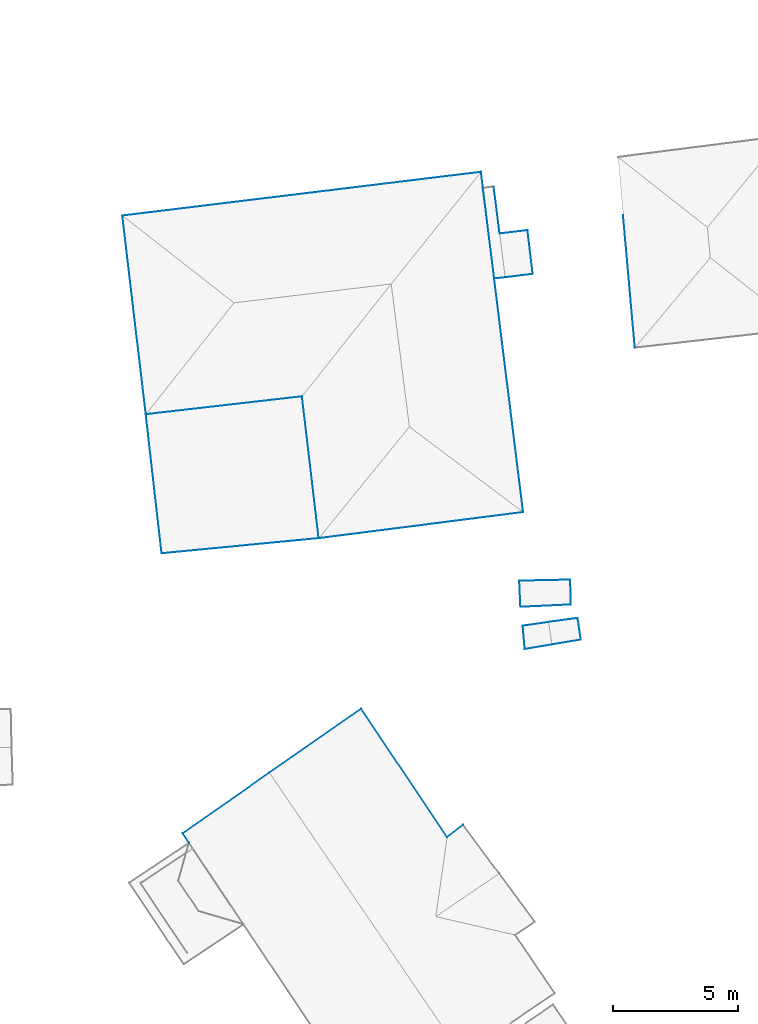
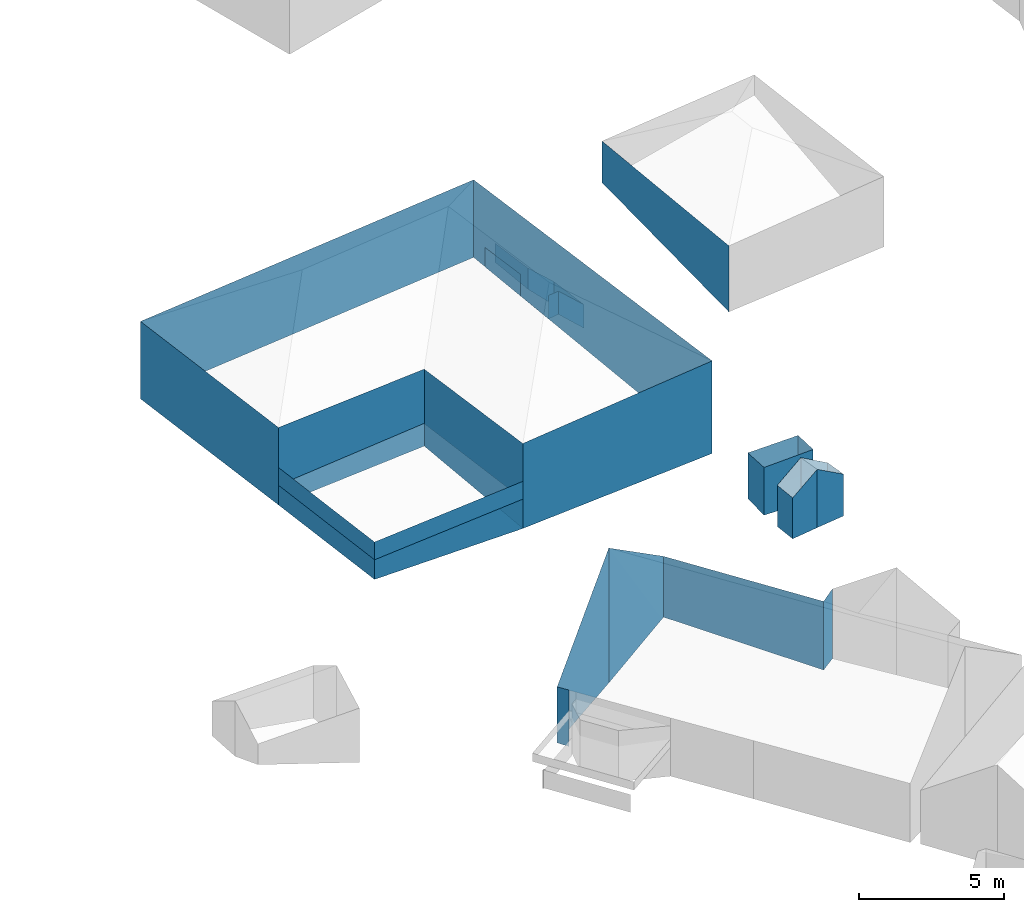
# Not in any storey, part 4 of 57: 36 walls.
"""IFC2X3 building model written with IfcOpenShell, lengths in metres."""

import ifcopenshell
import ifcopenshell.guid

model = None  # the IFC model being written
_history = None  # IfcOwnerHistory: only IFC2X3 demands one
_inside = {}  # id of a spatial element -> (the spatial element, [elements in it])
_under = {}  # id of a project, library or spatial element -> (it, [spatial elements below it])
_declared = {}  # id of a project -> (the project, [libraries it declares])
_typed = {}  # id of a type object -> (the type object, [elements of that type])
_made_of = {}  # id of a material, layer set ... -> (it, [elements and type objects made of it])


def new_model(schema):
    """Start an empty IFC model of exactly this schema.

    Asked for "IFC4X3", IfcOpenShell would pick the latest addendum, in which some entities
    have other attributes; the version numbers below select the first issue.
    IFC2X3 requires an IfcOwnerHistory on every rooted entity: one is made here for all.
    """
    global model, _history
    if schema == "IFC4X3":
        model = ifcopenshell.file(schema_version=(4, 3, 0, 0))
    else:
        model = ifcopenshell.file(schema=schema)
    _inside.clear()
    _under.clear()
    _declared.clear()
    _typed.clear()
    _made_of.clear()
    _history = None
    if model.schema == "IFC2X3":
        org = make("IfcOrganization", Name="unknown")
        user = make(
            "IfcPersonAndOrganization",
            ThePerson=make("IfcPerson", FamilyName="unknown"),
            TheOrganization=org,
        )
        app = make(
            "IfcApplication",
            ApplicationDeveloper=org,
            Version="unknown",
            ApplicationFullName="unknown",
            ApplicationIdentifier="unknown",
        )
        _history = make(
            "IfcOwnerHistory",
            OwningUser=user,
            OwningApplication=app,
            ChangeAction="ADDED",
            CreationDate=0,
        )
    return model


def make(cls, **values):
    """One entity of the class cls with the attributes given. An attribute that is None is left unset."""
    return model.create_entity(
        cls, **{name: value for name, value in values.items() if value is not None}
    )


def entity(cls, *values):
    """Any entity or typed value of the class cls, its attributes in the order of the schema. None: left unset."""
    e = model.create_entity(cls)
    for i, value in enumerate(values):
        if value is not None:
            e[i] = value
    return e


def rooted(cls, **values):
    """An entity with a GlobalId (a new one), such as an element, a storey or a relation."""
    return make(cls, GlobalId=ifcopenshell.guid.new(), OwnerHistory=_history, **values)


def si_unit(unit_type, name, prefix=None):
    """IfcSIUnit, for example si_unit("LENGTHUNIT", "METRE", prefix="MILLI")."""
    return make("IfcSIUnit", UnitType=unit_type, Prefix=prefix, Name=name)


def converted_unit(unit_type, name, factor, base, dimensions=None, offset=None):
    """IfcConversionBasedUnit, such as the inch: factor (a typed value) times the base unit."""
    return make(
        "IfcConversionBasedUnit"
        if offset is None
        else "IfcConversionBasedUnitWithOffset",
        ConversionOffset=offset,
        Dimensions=None
        if dimensions is None
        else entity("IfcDimensionalExponents", *dimensions),
        UnitType=unit_type,
        Name=name,
        ConversionFactor=make(
            "IfcMeasureWithUnit", ValueComponent=factor, UnitComponent=base
        ),
    )


def assignment(units):
    """IfcUnitAssignment: the units of a project."""
    return None if units is None else make("IfcUnitAssignment", Units=units)


def point(xyz):
    """IfcCartesianPoint."""
    return None if xyz is None else make("IfcCartesianPoint", Coordinates=xyz)


def direction(xyz):
    """IfcDirection."""
    return None if xyz is None else make("IfcDirection", DirectionRatios=xyz)


def frame(location, z_axis=None, x_axis=None):
    """IfcAxis2Placement3D, a coordinate frame: its origin and axes. An axis left out is left unset."""
    return make(
        "IfcAxis2Placement3D",
        Location=point(location),
        Axis=direction(z_axis),
        RefDirection=direction(x_axis),
    )


def origin():
    """The frame at (0, 0, 0) with its axes left unset."""
    return frame((0.0, 0.0, 0.0))


def place(relative_to, where):
    """IfcLocalPlacement: puts the frame where relative to a parent placement (None: the world)."""
    return make(
        "IfcLocalPlacement", PlacementRelTo=relative_to, RelativePlacement=where
    )


def context(
    kind, dimensions, precision=None, world=None, true_north=None, identifier=None
):
    """IfcGeometricRepresentationContext, for example the 3D "Model" context."""
    return make(
        "IfcGeometricRepresentationContext",
        ContextIdentifier=identifier,
        ContextType=kind,
        CoordinateSpaceDimension=dimensions,
        Precision=precision,
        WorldCoordinateSystem=world,
        TrueNorth=true_north,
    )


def subcontext(parent, identifier, kind, view, scale=None):
    """IfcGeometricRepresentationSubContext, for example "Body" below "Model"."""
    return make(
        "IfcGeometricRepresentationSubContext",
        ContextIdentifier=identifier,
        ContextType=kind,
        ParentContext=parent,
        TargetScale=scale,
        TargetView=view,
    )


def project(units=None, contexts=None):
    """IfcProject with its units and contexts."""
    return rooted(
        "IfcProject",
        Name="project",
        RepresentationContexts=contexts,
        UnitsInContext=assignment(units),
    )


def spatial(cls, under=None, at=None, **own):
    """A site, building, storey or space (cls), placed at a placement, below another one or the project."""
    s = rooted(cls, ObjectPlacement=at, **own)
    if under is not None:
        _under.setdefault(under.id(), (under, []))[1].append(s)
    return s


def faces_of(points, faces, orient=None, outer=None):
    """IfcFace entities. A face is a list of loops; a loop is a list of indices into points, from 0.

    orient and outer hold one flag for each loop. By default every Orientation is true, the
    first loop of a face is its IfcFaceOuterBound and the others are IfcFaceBound.
    """
    made = []
    for i, loops in enumerate(faces):
        bounds = []
        for j, loop in enumerate(loops):
            is_outer = j == 0 if outer is None else outer[i][j]
            bounds.append(
                make(
                    "IfcFaceOuterBound" if is_outer else "IfcFaceBound",
                    Bound=make("IfcPolyLoop", Polygon=[points[k] for k in loop]),
                    Orientation=True if orient is None else orient[i][j],
                )
            )
        made.append(make("IfcFace", Bounds=bounds))
    return made


def face_set(faces, orient=None, outer=None):
    """The faces of one IfcConnectedFaceSet. surface_model builds it on its shared points."""
    return ("IfcConnectedFaceSet", faces, orient, outer)


def surface_model(cls, points, shells):
    """IfcFaceBasedSurfaceModel or IfcShellBasedSurfaceModel (cls): surfaces that need not close."""
    shared = [point(p) for p in points]
    made = [make(c, CfsFaces=faces_of(shared, fs, o, b)) for c, fs, o, b in shells]
    if cls == "IfcFaceBasedSurfaceModel":
        return make(cls, FbsmFaces=made)
    return make(cls, SbsmBoundary=made)


def shape(context_of_items, identifier, shape_type, items):
    """IfcShapeRepresentation: the items that make up one representation, for example the "Body"."""
    return make(
        "IfcShapeRepresentation",
        ContextOfItems=context_of_items,
        RepresentationIdentifier=identifier,
        RepresentationType=shape_type,
        Items=items,
    )


def made_of(thing, what):
    """Note that an element or type object is made of a material, layer set ...; save() writes the relation."""
    if what is not None:
        _made_of.setdefault(what.id(), (what, []))[1].append(thing)
    return thing


def element(
    cls,
    number,
    at=None,
    inside=None,
    cuts=None,
    type_object=None,
    material=None,
    context=None,
    identifier="Body",
    shape_type=None,
    held_by="IfcProductDefinitionShape",
    body=None,
    shapes=None,
    **own,
):
    """One element of the class cls, such as IfcWall. Its Tag is "e" and its number.

    at: its placement. inside: the storey or other place that contains it. cuts: it is an
    opening in that element (IfcRelVoidsElement). A single representation is given by context,
    identifier, shape_type and body (its items); several are given by shapes. held_by: the class
    of the entity that holds the representations. save() writes the other relations.
    """
    e = rooted(cls, Tag="e%d" % number, ObjectPlacement=at, **own)
    if body is not None:
        shapes = [shape(context, identifier, shape_type, body)]
    if shapes is not None:
        e.Representation = make(held_by, Representations=shapes)
    if inside is not None:
        _inside.setdefault(inside.id(), (inside, []))[1].append(e)
    if cuts is not None:
        rooted(
            "IfcRelVoidsElement", RelatingBuildingElement=cuts, RelatedOpeningElement=e
        )
    if type_object is not None:
        _typed.setdefault(type_object.id(), (type_object, []))[1].append(e)
    return made_of(e, material)


def aggregate(whole, parts):
    """IfcRelAggregates: a whole, such as a stair, and the parts it consists of."""
    return rooted("IfcRelAggregates", RelatingObject=whole, RelatedObjects=parts)


def save(model, path):
    """Write the relations noted so far, then the file.

    IfcRelAggregates (storeys below a building ...), IfcRelContainedInSpatialStructure (elements
    in a storey), IfcRelDefinesByType, IfcRelAssociatesMaterial and IfcRelDeclares: one each for
    every whole, place, type object, material and project.
    """
    for whole, parts in _under.values():
        aggregate(whole, parts)
    for where, things in _inside.values():
        rooted(
            "IfcRelContainedInSpatialStructure",
            RelatedElements=things,
            RelatingStructure=where,
        )
    for kind, things in _typed.values():
        rooted("IfcRelDefinesByType", RelatedObjects=things, RelatingType=kind)
    for what, things in _made_of.values():
        rooted("IfcRelAssociatesMaterial", RelatedObjects=things, RelatingMaterial=what)
    for by, libraries in _declared.values():
        rooted("IfcRelDeclares", RelatingContext=by, RelatedDefinitions=libraries)
    model.write(path)


model = new_model("IFC2X3")

# Units and contexts
model_context = context("Model", 3, precision=1e-05, world=origin())
body_context = subcontext(model_context, "Body", "Model", "MODEL_VIEW")
ifc_project = project(units=[converted_unit("PLANEANGLEUNIT", "DEGREE", entity("IfcRatioMeasure", 0.0174532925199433), si_unit("PLANEANGLEUNIT", "RADIAN"), dimensions=[0, 0, 0, 0, 0, 0, 0]), si_unit("AREAUNIT", "SQUARE_METRE"), si_unit("LENGTHUNIT", "METRE")], contexts=[model_context])

# Site, building
site_placement = place(None, origin())
site = spatial("IfcSite", under=ifc_project, at=site_placement, Name="_site", CompositionType="ELEMENT")
building_1_placement = place(site_placement, origin())
building_1 = spatial("IfcBuilding", under=site, at=building_1_placement, Name="_building", CompositionType="ELEMENT")

# Walls
wall_1_placement = place(building_1_placement, origin())
element("IfcWall", 1, at=wall_1_placement, inside=building_1, Name="Wall", context=body_context, shape_type="SurfaceModel", body=[
    surface_model("IfcFaceBasedSurfaceModel", [(102.874, 93.813, 113.01), (100.861, 93.72, 113.01), (100.861, 93.72, 110.994), (102.874, 93.813, 110.897)], [face_set([[[0, 1, 2, 3]]])]),
])
wall_2_placement = place(building_1_placement, origin())
element("IfcWall", 2, at=wall_2_placement, inside=building_1, Name="Wall", context=body_context, shape_type="SurfaceModel", body=[
    surface_model("IfcFaceBasedSurfaceModel", [(102.847, 94.805, 113.01), (102.874, 93.813, 113.01), (102.874, 93.813, 110.897), (102.847, 94.805, 111.042)], [face_set([[[0, 1, 2, 3]]])]),
])
wall_3_placement = place(building_1_placement, origin())
element("IfcWall", 3, at=wall_3_placement, inside=building_1, Name="Wall", context=body_context, shape_type="SurfaceModel", body=[
    surface_model("IfcFaceBasedSurfaceModel", [(100.815, 94.762, 113.01), (102.847, 94.805, 113.01), (102.847, 94.805, 111.042), (100.815, 94.762, 111.077)], [face_set([[[0, 1, 2, 3]]])]),
])
wall_4_placement = place(building_1_placement, origin())
element("IfcWall", 4, at=wall_4_placement, inside=building_1, Name="Wall", context=body_context, shape_type="SurfaceModel", body=[
    surface_model("IfcFaceBasedSurfaceModel", [(100.861, 93.72, 113.01), (100.815, 94.762, 113.01), (100.815, 94.762, 111.077), (100.861, 93.72, 110.994)], [face_set([[[0, 1, 2, 3]]])]),
])

# Building
building_2_placement = place(site_placement, origin())
building_2 = spatial("IfcBuilding", under=site, at=building_2_placement, Name="_building", CompositionType="ELEMENT")

# Wall
wall_5_placement = place(building_2_placement, origin())
element("IfcWall", 5, at=wall_5_placement, inside=building_2, Name="Wall", context=body_context, shape_type="SurfaceModel", body=[
    surface_model("IfcFaceBasedSurfaceModel", [(105.426, 104.06, 114.5), (104.753, 111.67, 114.54), (104.753, 111.67, 112.791), (105.426, 104.06, 111.708)], [face_set([[[0, 1, 2, 3]]])]),
])

# Building
building_3_placement = place(site_placement, origin())
building_3 = spatial("IfcBuilding", under=site, at=building_3_placement, Name="_building", CompositionType="ELEMENT")

# Walls
wall_6_placement = place(building_3_placement, origin())
element("IfcWall", 6, at=wall_6_placement, inside=building_3, Name="Wall", context=body_context, shape_type="SurfaceModel", body=[
    surface_model("IfcFaceBasedSurfaceModel", [(100.953, 92.967, 112.68), (101.977, 93.114, 113.4), (101.977, 93.114, 110.922), (100.953, 92.967, 110.943)], [face_set([[[0, 1, 2, 3]]])]),
])
wall_7_placement = place(building_3_placement, origin())
element("IfcWall", 7, at=wall_7_placement, inside=building_3, Name="Wall", context=body_context, shape_type="SurfaceModel", body=[
    surface_model("IfcFaceBasedSurfaceModel", [(101.031, 92.035, 112.69), (100.953, 92.967, 112.68), (100.953, 92.967, 110.943), (101.031, 92.035, 110.958)], [face_set([[[0, 1, 2, 3]]])]),
])
wall_8_placement = place(building_3_placement, origin())
element("IfcWall", 8, at=wall_8_placement, inside=building_3, Name="Wall", context=body_context, shape_type="SurfaceModel", body=[
    surface_model("IfcFaceBasedSurfaceModel", [(102.116, 92.22, 113.4), (101.031, 92.035, 112.69), (101.031, 92.035, 110.958), (102.116, 92.22, 110.939)], [face_set([[[0, 1, 2, 3]]])]),
])
wall_9_placement = place(building_3_placement, origin())
element("IfcWall", 9, at=wall_9_placement, inside=building_3, Name="Wall", context=body_context, shape_type="SurfaceModel", body=[
    surface_model("IfcFaceBasedSurfaceModel", [(103.272, 92.413, 112.68), (102.116, 92.22, 113.4), (102.116, 92.22, 110.939), (103.272, 92.413, 110.91)], [face_set([[[0, 1, 2, 3]]])]),
])
wall_10_placement = place(building_3_placement, origin())
element("IfcWall", 10, at=wall_10_placement, inside=building_3, Name="Wall", context=body_context, shape_type="SurfaceModel", body=[
    surface_model("IfcFaceBasedSurfaceModel", [(103.142, 93.277, 112.68), (103.272, 92.413, 112.68), (103.272, 92.413, 110.91), (103.142, 93.277, 110.902)], [face_set([[[0, 1, 2, 3]]])]),
])
wall_11_placement = place(building_3_placement, origin())
element("IfcWall", 11, at=wall_11_placement, inside=building_3, Name="Wall", context=body_context, shape_type="SurfaceModel", body=[
    surface_model("IfcFaceBasedSurfaceModel", [(101.977, 93.114, 113.4), (103.142, 93.277, 112.68), (103.142, 93.277, 110.902), (101.977, 93.114, 110.922)], [face_set([[[0, 1, 2, 3]]])]),
])

# Building
building_4_placement = place(site_placement, origin())
building_4 = spatial("IfcBuilding", under=site, at=building_4_placement, Name="_building", CompositionType="ELEMENT")

# Walls
wall_12_placement = place(building_4_placement, origin())
element("IfcWall", 12, at=wall_12_placement, inside=building_4, Name="Wall", context=body_context, shape_type="SurfaceModel", body=[
    surface_model("IfcFaceBasedSurfaceModel", [(85.911, 101.405, 115.27), (84.976, 109.332, 115.27), (84.976, 109.332, 112.0), (85.911, 101.405, 112.0)], [face_set([[[0, 1, 2, 3]]])]),
])
wall_13_placement = place(building_4_placement, origin())
element("IfcWall", 13, at=wall_13_placement, inside=building_4, Name="Wall", context=body_context, shape_type="SurfaceModel", body=[
    surface_model("IfcFaceBasedSurfaceModel", [(99.286, 111.078, 115.18), (100.969, 97.5, 115.18), (100.969, 97.5, 111.27), (99.286, 111.078, 111.902)], [face_set([[[0, 1, 2, 3]]])]),
])
wall_14_placement = place(building_4_placement, origin())
element("IfcWall", 14, at=wall_14_placement, inside=building_4, Name="Wall", context=body_context, shape_type="SurfaceModel", body=[
    surface_model("IfcFaceBasedSurfaceModel", [(101.143, 108.753, 111.65), (101.352, 107.007, 111.65), (101.352, 107.007, 110.65), (101.143, 108.753, 110.65)], [face_set([[[0, 1, 2, 3]]])]),
])
wall_15_placement = place(building_4_placement, origin())
element("IfcWall", 15, at=wall_15_placement, inside=building_4, Name="Wall", context=body_context, shape_type="SurfaceModel", body=[
    surface_model("IfcFaceBasedSurfaceModel", [(92.142, 102.12, 112.83), (92.81, 96.46, 112.83), (92.81, 96.46, 111.59), (92.142, 102.12, 111.869)], [face_set([[[0, 1, 2, 3]]])]),
])
wall_16_placement = place(building_4_placement, origin())
element("IfcWall", 16, at=wall_16_placement, inside=building_4, Name="Wall", context=body_context, shape_type="SurfaceModel", body=[
    surface_model("IfcFaceBasedSurfaceModel", [(100.969, 97.5, 115.18), (92.81, 96.46, 115.18), (92.81, 96.46, 111.59), (100.969, 97.5, 111.27)], [face_set([[[0, 1, 2, 3]]])]),
])
wall_17_placement = place(building_4_placement, origin())
element("IfcWall", 17, at=wall_17_placement, inside=building_4, Name="Wall", context=body_context, shape_type="SurfaceModel", body=[
    surface_model("IfcFaceBasedSurfaceModel", [(92.81, 96.46, 115.18), (92.142, 102.12, 115.12), (92.142, 102.12, 111.869), (92.81, 96.46, 111.59)], [face_set([[[0, 1, 2, 3]]])]),
])
wall_18_placement = place(building_4_placement, origin())
element("IfcWall", 18, at=wall_18_placement, inside=building_4, Name="Wall", context=body_context, shape_type="SurfaceModel", body=[
    surface_model("IfcFaceBasedSurfaceModel", [(92.142, 102.12, 115.12), (85.911, 101.405, 115.27), (85.911, 101.405, 112.0), (92.142, 102.12, 111.869)], [face_set([[[0, 1, 2, 3]]])]),
])
wall_19_placement = place(building_4_placement, origin())
element("IfcWall", 19, at=wall_19_placement, inside=building_4, Name="Wall", context=body_context, shape_type="SurfaceModel", body=[
    surface_model("IfcFaceBasedSurfaceModel", [(100.029, 108.619, 112.69), (101.143, 108.753, 111.65), (101.143, 108.753, 110.65), (100.029, 108.619, 111.793)], [face_set([[[0, 1, 2, 3]]])]),
])
wall_20_placement = place(building_4_placement, origin())
element("IfcWall", 20, at=wall_20_placement, inside=building_4, Name="Wall", context=body_context, shape_type="SurfaceModel", body=[
    surface_model("IfcFaceBasedSurfaceModel", [(85.911, 101.405, 112.83), (92.142, 102.12, 112.83), (92.142, 102.12, 111.869), (85.911, 101.405, 112.0)], [face_set([[[0, 1, 2, 3]]])]),
])
wall_21_placement = place(building_4_placement, origin())
element("IfcWall", 21, at=wall_21_placement, inside=building_4, Name="Wall", context=body_context, shape_type="SurfaceModel", body=[
    surface_model("IfcFaceBasedSurfaceModel", [(84.976, 109.332, 115.27), (99.286, 111.078, 115.18), (99.286, 111.078, 111.902), (84.976, 109.332, 112.0)], [face_set([[[0, 1, 2, 3]]])]),
])
wall_22_placement = place(building_4_placement, origin())
element("IfcWall", 22, at=wall_22_placement, inside=building_4, Name="Wall", context=body_context, shape_type="SurfaceModel", body=[
    surface_model("IfcFaceBasedSurfaceModel", [(101.352, 107.007, 111.65), (100.248, 106.873, 112.69), (100.248, 106.873, 111.709), (101.352, 107.007, 110.65)], [face_set([[[0, 1, 2, 3]]])]),
])
wall_23_placement = place(building_4_placement, origin())
element("IfcWall", 23, at=wall_23_placement, inside=building_4, Name="Wall", context=body_context, shape_type="SurfaceModel", body=[
    surface_model("IfcFaceBasedSurfaceModel", [(92.81, 96.46, 112.83), (86.542, 95.857, 112.83), (86.542, 95.857, 112.0), (92.81, 96.46, 111.59)], [face_set([[[0, 1, 2, 3]]])]),
])
wall_24_placement = place(building_4_placement, origin())
element("IfcWall", 24, at=wall_24_placement, inside=building_4, Name="Wall", context=body_context, shape_type="SurfaceModel", body=[
    surface_model("IfcFaceBasedSurfaceModel", [(100.248, 106.873, 112.69), (99.817, 106.823, 112.69), (99.817, 106.823, 111.696), (100.248, 106.873, 111.709)], [face_set([[[0, 1, 2, 3]]])]),
])
wall_25_placement = place(building_4_placement, origin())
element("IfcWall", 25, at=wall_25_placement, inside=building_4, Name="Wall", context=body_context, shape_type="SurfaceModel", body=[
    surface_model("IfcFaceBasedSurfaceModel", [(99.793, 110.496, 112.69), (100.029, 108.619, 112.69), (100.029, 108.619, 111.793), (99.793, 110.496, 111.883)], [face_set([[[0, 1, 2, 3]]])]),
])
wall_26_placement = place(building_4_placement, origin())
element("IfcWall", 26, at=wall_26_placement, inside=building_4, Name="Wall", context=body_context, shape_type="SurfaceModel", body=[
    surface_model("IfcFaceBasedSurfaceModel", [(99.817, 106.823, 112.69), (99.361, 110.436, 112.69), (99.361, 110.436, 111.871), (99.817, 106.823, 111.696)], [face_set([[[0, 1, 2, 3]]])]),
])
wall_27_placement = place(building_4_placement, origin())
element("IfcWall", 27, at=wall_27_placement, inside=building_4, Name="Wall", context=body_context, shape_type="SurfaceModel", body=[
    surface_model("IfcFaceBasedSurfaceModel", [(86.542, 95.857, 112.83), (85.911, 101.405, 112.83), (85.911, 101.405, 112.0), (86.542, 95.857, 112.0)], [face_set([[[0, 1, 2, 3]]])]),
])
wall_28_placement = place(building_4_placement, origin())
element("IfcWall", 28, at=wall_28_placement, inside=building_4, Name="Wall", context=body_context, shape_type="SurfaceModel", body=[
    surface_model("IfcFaceBasedSurfaceModel", [(86.542, 95.857, 112.83), (85.911, 101.405, 112.83), (85.911, 101.405, 113.58), (86.542, 95.857, 113.58)], [face_set([[[0, 1, 2, 3]]])]),
])
wall_29_placement = place(building_4_placement, origin())
element("IfcWall", 29, at=wall_29_placement, inside=building_4, Name="Wall", context=body_context, shape_type="SurfaceModel", body=[
    surface_model("IfcFaceBasedSurfaceModel", [(92.81, 96.46, 112.83), (86.542, 95.857, 112.83), (86.542, 95.857, 113.58), (92.81, 96.46, 113.58)], [face_set([[[0, 1, 2, 3]]])]),
])
wall_30_placement = place(building_4_placement, origin())
element("IfcWall", 30, at=wall_30_placement, inside=building_4, Name="Wall", context=body_context, shape_type="SurfaceModel", body=[
    surface_model("IfcFaceBasedSurfaceModel", [(86.542, 95.857, 112.83), (85.911, 101.405, 112.83), (85.911, 101.405, 113.58), (86.542, 95.857, 113.58)], [face_set([[[0, 1, 2, 3]]])]),
])
wall_31_placement = place(building_4_placement, origin())
element("IfcWall", 31, at=wall_31_placement, inside=building_4, Name="Wall", context=body_context, shape_type="SurfaceModel", body=[
    surface_model("IfcFaceBasedSurfaceModel", [(92.81, 96.46, 112.83), (86.542, 95.857, 112.83), (86.542, 95.857, 113.58), (92.81, 96.46, 113.58)], [face_set([[[0, 1, 2, 3]]])]),
])

# Building
building_5_placement = place(site_placement, origin())
building_5 = spatial("IfcBuilding", under=site, at=building_5_placement, Name="_building", CompositionType="ELEMENT")

# Walls
wall_32_placement = place(building_5_placement, origin())
element("IfcWall", 32, at=wall_32_placement, inside=building_5, Name="Wall", context=body_context, shape_type="SurfaceModel", body=[
    surface_model("IfcFaceBasedSurfaceModel", [(97.934, 84.533, 113.95), (98.566, 85.029, 113.95), (98.566, 85.029, 111.005), (97.934, 84.533, 111.052)], [face_set([[[0, 1, 2, 3]]])]),
])
wall_33_placement = place(building_5_placement, origin())
element("IfcWall", 33, at=wall_33_placement, inside=building_5, Name="Wall", context=body_context, shape_type="SurfaceModel", body=[
    surface_model("IfcFaceBasedSurfaceModel", [(87.381, 84.68, 113.95), (90.84, 87.101, 117.13), (90.84, 87.101, 111.433), (87.381, 84.68, 111.583)], [face_set([[[0, 1, 2, 3]]])]),
])
wall_34_placement = place(building_5_placement, origin())
element("IfcWall", 34, at=wall_34_placement, inside=building_5, Name="Wall", context=body_context, shape_type="SurfaceModel", body=[
    surface_model("IfcFaceBasedSurfaceModel", [(87.632, 84.305, 113.954), (87.381, 84.68, 113.95), (87.381, 84.68, 111.583), (87.632, 84.305, 111.571)], [face_set([[[0, 1, 2, 3]]])]),
])
wall_35_placement = place(building_5_placement, origin())
element("IfcWall", 35, at=wall_35_placement, inside=building_5, Name="Wall", context=body_context, shape_type="SurfaceModel", body=[
    surface_model("IfcFaceBasedSurfaceModel", [(94.502, 89.656, 113.95), (97.934, 84.533, 113.95), (97.934, 84.533, 111.052), (94.502, 89.656, 111.379)], [face_set([[[0, 1, 2, 3]]])]),
])
wall_36_placement = place(building_5_placement, origin())
element("IfcWall", 36, at=wall_36_placement, inside=building_5, Name="Wall", context=body_context, shape_type="SurfaceModel", body=[
    surface_model("IfcFaceBasedSurfaceModel", [(90.84, 87.101, 117.13), (94.502, 89.656, 113.95), (94.502, 89.656, 111.379), (90.84, 87.101, 111.433)], [face_set([[[0, 1, 2, 3]]])]),
])

save(model, "model.ifc")
